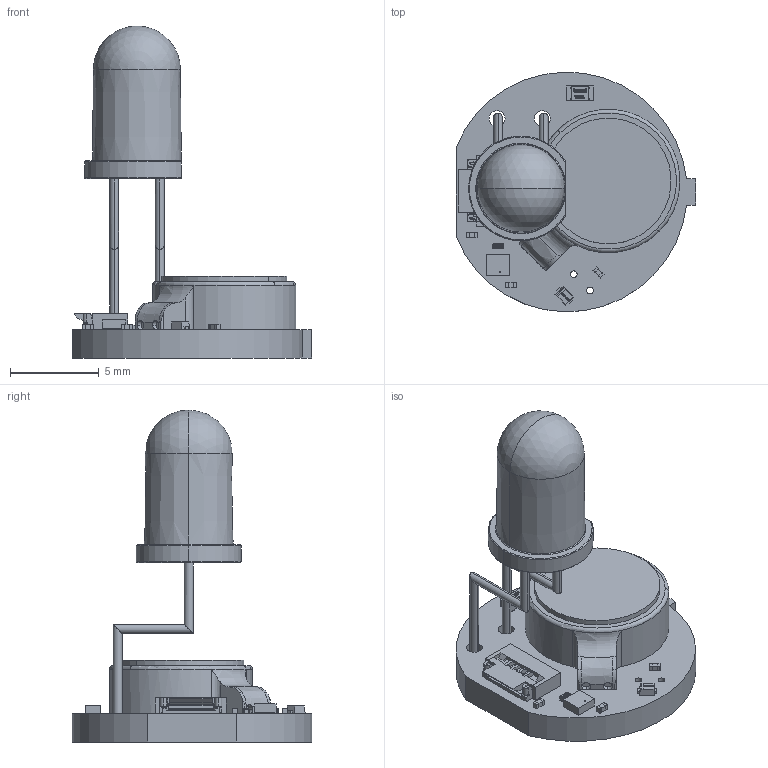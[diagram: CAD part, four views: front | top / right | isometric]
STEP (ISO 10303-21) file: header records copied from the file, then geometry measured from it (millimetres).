
FILE_DESCRIPTION(('Open CASCADE Model'),'2;1');
FILE_NAME('Open CASCADE Shape Model','2023-06-20T05:07:20',('Author'),( 'Open CASCADE'),'Open CASCADE STEP processor 6.8','Open CASCADE 6.8' ,'Unknown');
FILE_SCHEMA(('AUTOMOTIVE_DESIGN { 1 0 10303 214 1 1 1 1 }'));
Length unit declared in the file: millimetre
Products named in the file (24): PCB; Board; Open CASCADE STEP translator 6.8 1.1.1; LED1; led; D1; User_Library-DIODE_SOD-923; Designator30; LCM0827A3038F; LCM0827A3038F.dwg; Vibration_Motor_v1.dwg; U1; LDK120PU33R; R2; User_Library-0201(0603M)_Res; R1; User_Library-RESC1608X05N; J2; FH19C-4S-0.5SH-10---3DModel-STEP-1; FH19C-4S-0.5SH_\X\8A\ÜH\X\97\Ü*; C6; User_Library-SMD_Ceramic_Capacitors_0201_(0603)_AB; C5; C4
Assembly tree (25 placements, depth 5):
  PCB
    Board
      Open CASCADE STEP translator 6.8 1.1.1
    LED1
      led
    D1
      User_Library-DIODE_SOD-923
    Designator30
      LCM0827A3038F
        LCM0827A3038F.dwg
          Vibration_Motor_v1.dwg
    U1
      LDK120PU33R
    R2
      User_Library-0201(0603M)_Res
    R1
      User_Library-RESC1608X05N
    J2
      FH19C-4S-0.5SH-10---3DModel-STEP-1
        FH19C-4S-0.5SH_\X\8A\ÜH\X\97\Ü*
    C6
      User_Library-SMD_Ceramic_Capacitors_0201_(0603)_AB
    C5
      User_Library-SMD_Ceramic_Capacitors_0201_(0603)_AB
    C4
      User_Library-SMD_Ceramic_Capacitors_0201_(0603)_AB
Bounding box: 13.52 x 13.49 x 18.7 mm (x, y, z)
Volume: 552.1 mm3; surface area: 919.1 mm2
Topology: 28 solids, 28 shells, 994 faces, 2506 edges, 1536 vertices
Faces by surface type: plane 427, bspline 322, cylinder 230, torus 9, sphere 4, cone 2
Full cylindrical faces by diameter (mm): 0.38 x2, 0.9 x2
Entity records: 35398 total; most frequent: CARTESIAN_POINT 12776, ORIENTED_EDGE 4408, DIRECTION 3234, EDGE_CURVE 2204, VERTEX_POINT 1408, LINE 1308, VECTOR 1308, AXIS2_PLACEMENT_3D 963
